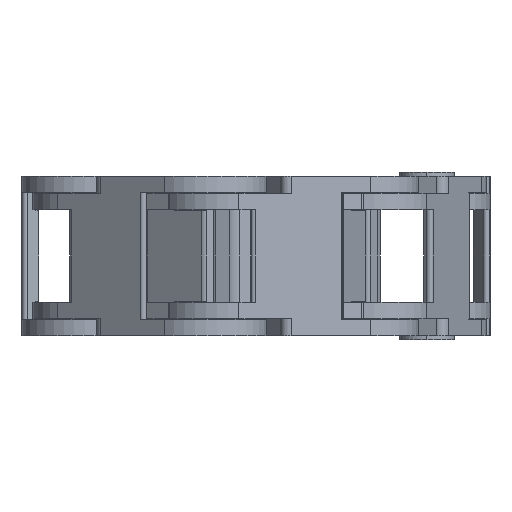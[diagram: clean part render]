
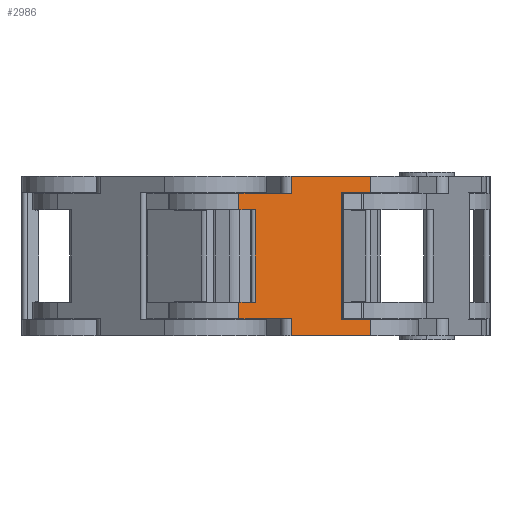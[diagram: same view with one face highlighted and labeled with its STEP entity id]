
A CAD part, left-side view. The second image highlights one B-rep face of the part: STEP entity #2986.
In plain terms, the highlighted planar face has unit normal (-0.97, -0.242, 0) as drawn and (0, 1, 0) by its records, which use the part's own axes.
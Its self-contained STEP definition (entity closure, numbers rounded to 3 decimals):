
#1002=DIRECTION('',(0.,0.,-1.));
#1003=VECTOR('',#1002,10.);
#1004=CARTESIAN_POINT('',(19.617,6.8,5.));
#1005=LINE('',#1004,#1003);
#1006=DIRECTION('',(1.,0.,0.));
#1007=VECTOR('',#1006,1.811);
#1008=CARTESIAN_POINT('',(19.617,6.8,5.));
#1009=LINE('',#1008,#1007);
#1010=DIRECTION('',(0.,0.,-1.));
#1011=VECTOR('',#1010,1.75);
#1012=CARTESIAN_POINT('',(6.8,6.8,8.6));
#1013=LINE('',#1012,#1011);
#1014=DIRECTION('',(1.,0.,0.));
#1015=VECTOR('',#1014,3.265);
#1016=CARTESIAN_POINT('',(6.8,6.8,6.85));
#1017=LINE('',#1016,#1015);
#1018=DIRECTION('',(-1.,0.,0.));
#1019=VECTOR('',#1018,3.265);
#1020=CARTESIAN_POINT('',(10.065,6.8,-6.85));
#1021=LINE('',#1020,#1019);
#1022=DIRECTION('',(1.,0.,0.));
#1023=VECTOR('',#1022,8.8);
#1024=CARTESIAN_POINT('',(6.8,6.8,-8.6));
#1025=LINE('',#1024,#1023);
#1026=DIRECTION('',(1.,0.,0.));
#1027=VECTOR('',#1026,5.828);
#1028=CARTESIAN_POINT('',(15.6,6.8,-6.75));
#1029=LINE('',#1028,#1027);
#1030=DIRECTION('',(0.,0.,1.));
#1031=VECTOR('',#1030,1.75);
#1032=CARTESIAN_POINT('',(21.428,6.8,-6.75));
#1033=LINE('',#1032,#1031);
#1034=DIRECTION('',(-1.,0.,0.));
#1035=VECTOR('',#1034,1.811);
#1036=CARTESIAN_POINT('',(21.428,6.8,-5.));
#1037=LINE('',#1036,#1035);
#1038=DIRECTION('',(0.,0.,-1.));
#1039=VECTOR('',#1038,1.75);
#1040=CARTESIAN_POINT('',(21.428,6.8,6.75));
#1041=LINE('',#1040,#1039);
#1124=DIRECTION('',(1.,0.,0.));
#1125=VECTOR('',#1124,5.828);
#1126=CARTESIAN_POINT('',(15.6,6.8,6.75));
#1127=LINE('',#1126,#1125);
#1202=DIRECTION('',(1.,0.,0.));
#1203=VECTOR('',#1202,8.8);
#1204=CARTESIAN_POINT('',(6.8,6.8,8.6));
#1205=LINE('',#1204,#1203);
#1233=DIRECTION('',(0.,0.,-1.));
#1234=VECTOR('',#1233,1.85);
#1235=CARTESIAN_POINT('',(15.6,6.8,8.6));
#1236=LINE('',#1235,#1234);
#1272=DIRECTION('',(0.,0.,1.));
#1273=VECTOR('',#1272,13.7);
#1274=CARTESIAN_POINT('',(10.065,6.8,-6.85));
#1275=LINE('',#1274,#1273);
#1280=DIRECTION('',(0.,0.,1.));
#1281=VECTOR('',#1280,1.75);
#1282=CARTESIAN_POINT('',(6.8,6.8,-8.6));
#1283=LINE('',#1282,#1281);
#1320=DIRECTION('',(0.,0.,-1.));
#1321=VECTOR('',#1320,1.85);
#1322=CARTESIAN_POINT('',(15.6,6.8,-6.75));
#1323=LINE('',#1322,#1321);
#2015=CARTESIAN_POINT('',(21.428,6.8,5.));
#2016=VERTEX_POINT('',#2015);
#2017=CARTESIAN_POINT('',(21.428,6.8,-5.));
#2019=VERTEX_POINT('',#2017);
#2062=CARTESIAN_POINT('',(10.065,6.8,-6.85));
#2063=CARTESIAN_POINT('',(6.8,6.8,-6.85));
#2064=VERTEX_POINT('',#2062);
#2065=VERTEX_POINT('',#2063);
#2081=CARTESIAN_POINT('',(10.065,6.8,6.85));
#2082=VERTEX_POINT('',#2081);
#2083=CARTESIAN_POINT('',(6.8,6.8,6.85));
#2084=VERTEX_POINT('',#2083);
#2163=CARTESIAN_POINT('',(21.428,6.8,-6.75));
#2164=VERTEX_POINT('',#2163);
#2165=CARTESIAN_POINT('',(15.6,6.8,-6.75));
#2166=VERTEX_POINT('',#2165);
#2200=CARTESIAN_POINT('',(15.6,6.8,6.75));
#2201=CARTESIAN_POINT('',(21.428,6.8,6.75));
#2202=VERTEX_POINT('',#2200);
#2203=VERTEX_POINT('',#2201);
#2219=CARTESIAN_POINT('',(6.8,6.8,8.6));
#2220=CARTESIAN_POINT('',(15.6,6.8,8.6));
#2221=VERTEX_POINT('',#2219);
#2222=VERTEX_POINT('',#2220);
#2227=CARTESIAN_POINT('',(6.8,6.8,-8.6));
#2228=CARTESIAN_POINT('',(15.6,6.8,-8.6));
#2229=VERTEX_POINT('',#2227);
#2230=VERTEX_POINT('',#2228);
#2323=CARTESIAN_POINT('',(19.617,6.8,5.));
#2324=VERTEX_POINT('',#2323);
#2325=CARTESIAN_POINT('',(19.617,6.8,-5.));
#2326=VERTEX_POINT('',#2325);
#2952=CARTESIAN_POINT('',(0.,6.8,0.));
#2953=DIRECTION('',(0.,1.,0.));
#2954=DIRECTION('',(1.,0.,0.));
#2955=AXIS2_PLACEMENT_3D('',#2952,#2953,#2954);
#2956=PLANE('',#2955);
#2957=ORIENTED_EDGE('',*,*,#2946,.F.);
#2958=ORIENTED_EDGE('',*,*,#2877,.T.);
#2960=ORIENTED_EDGE('',*,*,#2959,.F.);
#2962=ORIENTED_EDGE('',*,*,#2961,.F.);
#2964=ORIENTED_EDGE('',*,*,#2963,.F.);
#2966=ORIENTED_EDGE('',*,*,#2965,.F.);
#2968=ORIENTED_EDGE('',*,*,#2967,.T.);
#2969=ORIENTED_EDGE('',*,*,#2774,.T.);
#2971=ORIENTED_EDGE('',*,*,#2970,.F.);
#2972=ORIENTED_EDGE('',*,*,#2586,.T.);
#2974=ORIENTED_EDGE('',*,*,#2973,.F.);
#2976=ORIENTED_EDGE('',*,*,#2975,.T.);
#2978=ORIENTED_EDGE('',*,*,#2977,.F.);
#2980=ORIENTED_EDGE('',*,*,#2979,.T.);
#2982=ORIENTED_EDGE('',*,*,#2981,.T.);
#2983=ORIENTED_EDGE('',*,*,#2907,.T.);
#2984=EDGE_LOOP('',(#2957,#2958,#2960,#2962,#2964,#2966,#2968,#2969,#2971,#2972,
#2974,#2976,#2978,#2980,#2982,#2983));
#2985=FACE_OUTER_BOUND('',#2984,.F.);
#2986=ADVANCED_FACE('',(#2985),#2956,.T.);
#2586=EDGE_CURVE('',#2064,#2065,#1021,.T.);
#2774=EDGE_CURVE('',#2084,#2082,#1017,.T.);
#2877=EDGE_CURVE('',#2324,#2016,#1009,.T.);
#2907=EDGE_CURVE('',#2019,#2326,#1037,.T.);
#2946=EDGE_CURVE('',#2324,#2326,#1005,.T.);
#2959=EDGE_CURVE('',#2203,#2016,#1041,.T.);
#2961=EDGE_CURVE('',#2202,#2203,#1127,.T.);
#2963=EDGE_CURVE('',#2222,#2202,#1236,.T.);
#2965=EDGE_CURVE('',#2221,#2222,#1205,.T.);
#2967=EDGE_CURVE('',#2221,#2084,#1013,.T.);
#2970=EDGE_CURVE('',#2064,#2082,#1275,.T.);
#2973=EDGE_CURVE('',#2229,#2065,#1283,.T.);
#2975=EDGE_CURVE('',#2229,#2230,#1025,.T.);
#2977=EDGE_CURVE('',#2166,#2230,#1323,.T.);
#2979=EDGE_CURVE('',#2166,#2164,#1029,.T.);
#2981=EDGE_CURVE('',#2164,#2019,#1033,.T.);
